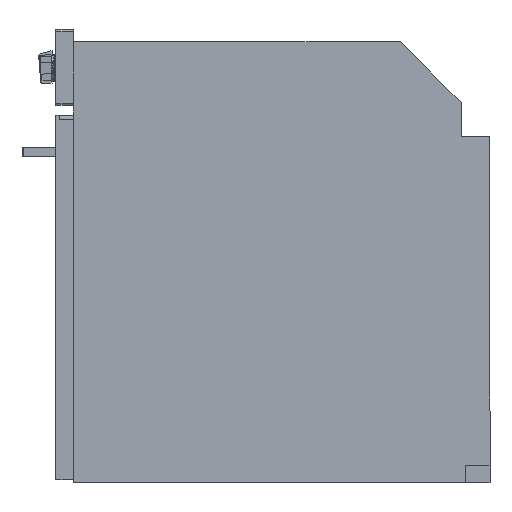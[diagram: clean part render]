
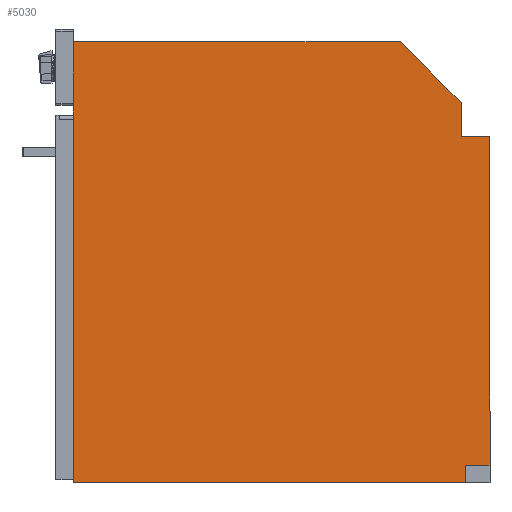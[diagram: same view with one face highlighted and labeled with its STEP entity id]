
A CAD part, left-side view. The second image highlights one B-rep face of the part: STEP entity #5030.
In plain terms, the highlighted planar face has unit normal (-1, 0, 0).
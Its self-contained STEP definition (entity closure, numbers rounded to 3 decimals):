
#525=ORIENTED_EDGE('',*,*,#1501,.T.);
#526=ORIENTED_EDGE('',*,*,#1502,.T.);
#527=ORIENTED_EDGE('',*,*,#1503,.T.);
#528=ORIENTED_EDGE('',*,*,#1504,.T.);
#529=ORIENTED_EDGE('',*,*,#1505,.T.);
#530=ORIENTED_EDGE('',*,*,#1506,.T.);
#531=ORIENTED_EDGE('',*,*,#1481,.T.);
#532=ORIENTED_EDGE('',*,*,#1507,.T.);
#533=ORIENTED_EDGE('',*,*,#1483,.T.);
#534=ORIENTED_EDGE('',*,*,#1491,.T.);
#535=ORIENTED_EDGE('',*,*,#1489,.T.);
#536=ORIENTED_EDGE('',*,*,#1500,.T.);
#1481=EDGE_CURVE('',#1987,#1986,#2318,.T.);
#1483=EDGE_CURVE('',#1988,#1989,#2320,.T.);
#1489=EDGE_CURVE('',#1995,#1994,#2326,.T.);
#1491=EDGE_CURVE('',#1989,#1995,#2328,.T.);
#1500=EDGE_CURVE('',#1994,#2001,#2337,.T.);
#1501=EDGE_CURVE('',#2001,#2002,#2338,.T.);
#1502=EDGE_CURVE('',#2002,#2003,#2339,.T.);
#1503=EDGE_CURVE('',#2003,#2004,#2340,.T.);
#1504=EDGE_CURVE('',#2004,#2005,#2341,.T.);
#1505=EDGE_CURVE('',#2005,#2006,#2342,.T.);
#1506=EDGE_CURVE('',#2006,#1987,#2343,.T.);
#1507=EDGE_CURVE('',#1986,#1988,#2344,.T.);
#1986=VERTEX_POINT('',#6794);
#1987=VERTEX_POINT('',#6796);
#1988=VERTEX_POINT('',#6800);
#1989=VERTEX_POINT('',#6801);
#1994=VERTEX_POINT('',#6812);
#1995=VERTEX_POINT('',#6814);
#2001=VERTEX_POINT('',#6833);
#2002=VERTEX_POINT('',#6837);
#2003=VERTEX_POINT('',#6839);
#2004=VERTEX_POINT('',#6841);
#2005=VERTEX_POINT('',#6843);
#2006=VERTEX_POINT('',#6845);
#2318=LINE('',#6795,#2609);
#2320=LINE('',#6799,#2611);
#2326=LINE('',#6813,#2617);
#2328=LINE('',#6817,#2619);
#2337=LINE('',#6834,#2628);
#2338=LINE('',#6836,#2629);
#2339=LINE('',#6838,#2630);
#2340=LINE('',#6840,#2631);
#2341=LINE('',#6842,#2632);
#2342=LINE('',#6844,#2633);
#2343=LINE('',#6846,#2634);
#2344=LINE('',#6847,#2635);
#2609=VECTOR('',#5597,1000.);
#2611=VECTOR('',#5601,1000.);
#2617=VECTOR('',#5609,1000.);
#2619=VECTOR('',#5613,1000.);
#2628=VECTOR('',#5626,1000.);
#2629=VECTOR('',#5629,1000.);
#2630=VECTOR('',#5630,1000.);
#2631=VECTOR('',#5631,1000.);
#2632=VECTOR('',#5632,1000.);
#2633=VECTOR('',#5633,1000.);
#2634=VECTOR('',#5634,1000.);
#2635=VECTOR('',#5635,1000.);
#2919=EDGE_LOOP('',(#525,#526,#527,#528,#529,#530,#531,#532,#533,#534,#535,
#536));
#3174=FACE_BOUND('',#2919,.T.);
#3409=PLANE('',#5251);
#5030=ADVANCED_FACE('',(#3174),#3409,.T.);
#5251=AXIS2_PLACEMENT_3D('',#6835,#5627,#5628);
#5597=DIRECTION('',(0.,0.,-1.));
#5601=DIRECTION('',(0.,0.,-1.));
#5609=DIRECTION('',(0.,0.,1.));
#5613=DIRECTION('',(0.,-1.,0.));
#5626=DIRECTION('',(0.,-1.,0.));
#5627=DIRECTION('',(-1.,0.,0.));
#5628=DIRECTION('',(0.,0.,1.));
#5629=DIRECTION('',(0.,0.,1.));
#5630=DIRECTION('',(0.,1.,0.));
#5631=DIRECTION('',(0.,0.,1.));
#5632=DIRECTION('',(0.,0.707,0.707));
#5633=DIRECTION('',(0.,1.,0.));
#5634=DIRECTION('',(0.,0.,-1.));
#5635=DIRECTION('',(0.,0.,-1.));
#6794=CARTESIAN_POINT('',(-275.,548.,483.));
#6795=CARTESIAN_POINT('',(-275.,548.,580.));
#6796=CARTESIAN_POINT('',(-275.,548.,496.));
#6799=CARTESIAN_POINT('',(-275.,548.,580.));
#6800=CARTESIAN_POINT('',(-275.,548.,4.));
#6801=CARTESIAN_POINT('',(-275.,548.,0.));
#6812=CARTESIAN_POINT('',(-275.,32.,23.));
#6813=CARTESIAN_POINT('',(-275.,32.,0.));
#6814=CARTESIAN_POINT('',(-275.,32.,0.));
#6817=CARTESIAN_POINT('',(-275.,548.,0.));
#6833=CARTESIAN_POINT('',(-275.,0.,23.));
#6834=CARTESIAN_POINT('',(-275.,32.,23.));
#6835=CARTESIAN_POINT('',(-275.,0.,0.));
#6836=CARTESIAN_POINT('',(-275.,0.,23.));
#6837=CARTESIAN_POINT('',(-275.,0.,455.));
#6838=CARTESIAN_POINT('',(-275.,0.,455.));
#6839=CARTESIAN_POINT('',(-275.,38.,455.));
#6840=CARTESIAN_POINT('',(-275.,38.,455.));
#6841=CARTESIAN_POINT('',(-275.,38.,500.));
#6842=CARTESIAN_POINT('',(-275.,38.,500.));
#6843=CARTESIAN_POINT('',(-275.,118.,580.));
#6844=CARTESIAN_POINT('',(-275.,118.,580.));
#6845=CARTESIAN_POINT('',(-275.,548.,580.));
#6846=CARTESIAN_POINT('',(-275.,548.,580.));
#6847=CARTESIAN_POINT('',(-275.,548.,580.));
